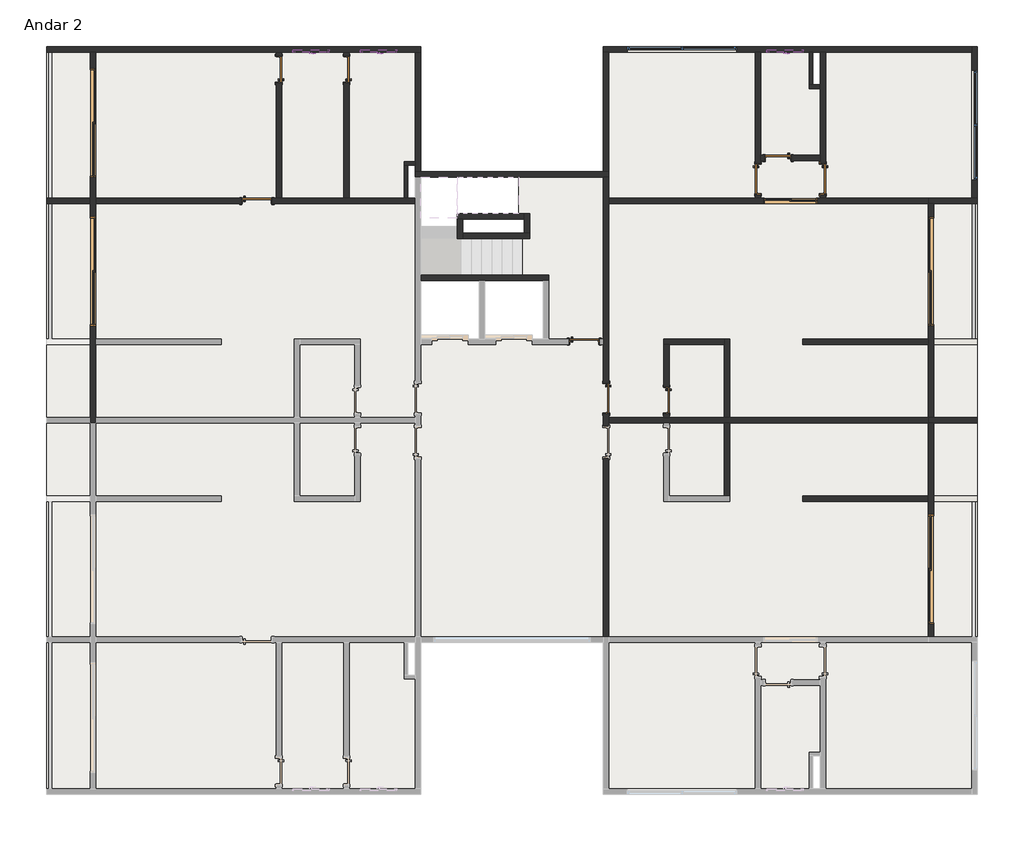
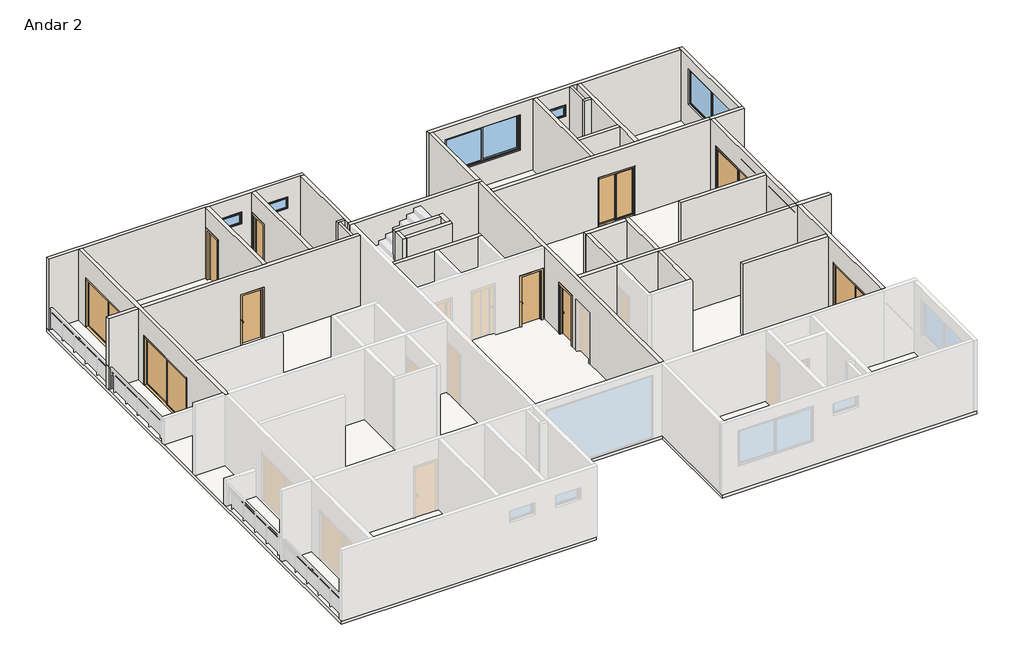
# One storey, part 2 of 3: 38 walls, 14 doors, 5 windows, 1 slab.
"""IFC4 building model written with IfcOpenShell, lengths in millimetres."""

from ifc_helpers import new_model, si_unit, frame, origin, place, context, project, spatial, polyline, outline, extrude, faceted_brep, transform, mapped, element, save
from components import door_3_00m_x_2_10m_bc451fc0, door_3_00m_x_2_10m_5baaadc1, door_interior_single_flush_panel_wood_70m_89b55d44, door_interior_single_flush_panel_wood_70m_eb1ec4d9, door_interior_single_flush_panel_wood_80m_pcf_cb5077a7, door_interior_single_flush_panel_wood_80m_pcf_192ded05, p2_1_50m_x_2_10m_2a77f288, window_d9182d47, j1_3_00m_x_1_50m_afc201fb

model = new_model("IFC4")

# Units and contexts
model_context = context("Model", 3, world=origin())
ifc_project = project(units=[si_unit("LENGTHUNIT", "METRE", prefix="MILLI")], contexts=[model_context])

# Site, building, storey
site = spatial("IfcSite", under=ifc_project)
building = spatial("IfcBuilding", under=site)
storey = spatial("IfcBuildingStorey", under=building, Name="Andar 2", Elevation=6150.0)

# Doors
placement = place(None, origin())
door_3_00m_x_2_10m_shape = door_3_00m_x_2_10m_bc451fc0(model_context)
element("IfcDoor", 1, ObjectType="Porta de Correr - 2 Folhas - ComPainel 1 : 3.00m x 2.10m", at=placement, inside=storey, context=model_context, shape_type="MappedRepresentation", body=[
    mapped(door_3_00m_x_2_10m_shape, transform((7275.0, 16604.2060771, 6150.0), x_axis=(0.0, -1.0, 0.0), y_axis=(1.0, 0.0, 0.0), z_axis=(0.0, 0.0, 1.0))),
])
element("IfcDoor", 2, ObjectType="Porta de Correr - 2 Folhas - ComPainel 1 : 3.00m x 2.10m", at=placement, inside=storey, context=model_context, shape_type="MappedRepresentation", body=[
    mapped(door_3_00m_x_2_10m_shape, transform((7275.0, 20664.2060771, 6150.0), x_axis=(0.0, -1.0, 0.0), y_axis=(1.0, 0.0, 0.0), z_axis=(0.0, 0.0, 1.0))),
])
element("IfcDoor", 3, ObjectType="Porta de Correr - 2 Folhas - ComPainel 1 : 3.00m x 2.10m", at=placement, inside=storey, context=model_context, shape_type="MappedRepresentation", body=[
    mapped(door_3_00m_x_2_10m_shape, transform((30175.0, 8395.7939229, 6150.0), x_axis=(0.0, 1.0, 0.0), y_axis=(-1.0, 0.0, 0.0), z_axis=(0.0, 0.0, 1.0))),
])
door_3_00m_x_2_10m_2_shape = door_3_00m_x_2_10m_5baaadc1(model_context)
element("IfcDoor", 4, ObjectType="Porta de Correr - 2 Folhas - ComPainel 1 : 3.00m x 2.10m", at=placement, inside=storey, context=model_context, shape_type="MappedRepresentation", body=[
    mapped(door_3_00m_x_2_10m_2_shape, transform((30175.0, 16604.2060771, 6150.0), x_axis=(0.0, -1.0, 0.0), y_axis=(1.0, 0.0, 0.0), z_axis=(0.0, 0.0, 1.0))),
])
door_interior_single_flush_panel_wood_70m_shape = door_interior_single_flush_panel_wood_70m_89b55d44(model_context)
element("IfcDoor", 5, ObjectType="Door-Interior-Single-Flush_Panel-Wood : .70m", at=placement, inside=storey, context=model_context, shape_type="MappedRepresentation", body=[
    mapped(door_interior_single_flush_panel_wood_70m_shape, transform((22953.175, 13050.4, 6150.0), x_axis=(0.0, -1.0, 0.0), y_axis=(1.0, 0.0, 0.0), z_axis=(0.0, 0.0, 1.0))),
])
door_interior_single_flush_panel_wood_70m_2_shape = door_interior_single_flush_panel_wood_70m_eb1ec4d9(model_context)
element("IfcDoor", 6, ObjectType="Door-Interior-Single-Flush_Panel-Wood : .70m", at=placement, inside=storey, context=model_context, shape_type="MappedRepresentation", body=[
    mapped(door_interior_single_flush_panel_wood_70m_2_shape, transform((14203.175, 22099.6, 6150.0), x_axis=(0.0, 1.0, 0.0), y_axis=(-1.0, 0.0, 0.0), z_axis=(0.0, 0.0, 1.0))),
])
element("IfcDoor", 7, ObjectType="Door-Interior-Single-Flush_Panel-Wood : .70m", at=placement, inside=storey, context=model_context, shape_type="MappedRepresentation", body=[
    mapped(door_interior_single_flush_panel_wood_70m_2_shape, transform((26000.4, 19678.575, 6150.0), x_axis=(-1.0, 0.0, 0.0), y_axis=(0.0, -1.0, 0.0), z_axis=(0.0, 0.0, 1.0))),
])
element("IfcDoor", 8, ObjectType="Door-Interior-Single-Flush_Panel-Wood : .70m", at=placement, inside=storey, context=model_context, shape_type="MappedRepresentation", body=[
    mapped(door_interior_single_flush_panel_wood_70m_2_shape, transform((12353.175, 22099.6, 6150.0), x_axis=(0.0, 1.0, 0.0), y_axis=(-1.0, 0.0, 0.0), z_axis=(0.0, 0.0, 1.0))),
])
door_interior_single_flush_panel_wood_80m_pcf_shape = door_interior_single_flush_panel_wood_80m_pcf_cb5077a7(model_context)
element("IfcDoor", 9, ObjectType="Door-Interior-Single-Flush_Panel-Wood : .80m", at=placement, inside=storey, context=model_context, shape_type="MappedRepresentation", body=[
    mapped(door_interior_single_flush_panel_wood_80m_pcf_shape, transform((25446.825, 19100.4, 6150.0), x_axis=(0.0, -1.0, 0.0), y_axis=(1.0, 0.0, 0.0), z_axis=(0.0, 0.0, 1.0))),
])
door_interior_single_flush_panel_wood_80m_pcf_2_shape = door_interior_single_flush_panel_wood_80m_pcf_192ded05(model_context)
element("IfcDoor", 10, ObjectType="Door-Interior-Single-Flush_Panel-Wood : .80m", at=placement, inside=storey, context=model_context, shape_type="MappedRepresentation", body=[
    mapped(door_interior_single_flush_panel_wood_80m_pcf_2_shape, transform((11749.6, 18503.175, 6150.0), x_axis=(1.0, 0.0, 0.0), y_axis=(0.0, 1.0, 0.0), z_axis=(0.0, 0.0, 1.0))),
])
element("IfcDoor", 11, ObjectType="Door-Interior-Single-Flush_Panel-Wood : .80m", at=placement, inside=storey, context=model_context, shape_type="MappedRepresentation", body=[
    mapped(door_interior_single_flush_panel_wood_80m_pcf_2_shape, transform((27228.175, 19100.4, 6150.0), x_axis=(0.0, -1.0, 0.0), y_axis=(1.0, 0.0, 0.0), z_axis=(0.0, 0.0, 1.0))),
])
element("IfcDoor", 12, ObjectType="Door-Interior-Single-Flush_Panel-Wood : .80m - PCF", at=placement, inside=storey, context=model_context, shape_type="MappedRepresentation", body=[
    mapped(door_interior_single_flush_panel_wood_80m_pcf_2_shape, transform((21303.175, 13100.4, 6150.0), x_axis=(0.0, -1.0, 0.0), y_axis=(1.0, 0.0, 0.0), z_axis=(0.0, 0.0, 1.0))),
])
element("IfcDoor", 13, ObjectType="Door-Interior-Single-Flush_Panel-Wood : .80m - PCF", at=placement, inside=storey, context=model_context, shape_type="MappedRepresentation", body=[
    mapped(door_interior_single_flush_panel_wood_80m_pcf_2_shape, transform((20699.6, 14653.175, 6150.0), x_axis=(1.0, 0.0, 0.0), y_axis=(0.0, 1.0, 0.0), z_axis=(0.0, 0.0, 1.0))),
])
p2_1_50m_x_2_10m_shape = p2_1_50m_x_2_10m_2a77f288(model_context)
element("IfcDoor", 14, ObjectType="Porta de Correr - 2 Folhas - ComPainel 1 : P2 - 1.50m x 2.10m", at=placement, inside=storey, context=model_context, shape_type="MappedRepresentation", body=[
    mapped(p2_1_50m_x_2_10m_shape, transform((26308.2939229, 18500.0, 6150.0), x_axis=(1.0, 0.0, 0.0), y_axis=(0.0, 1.0, 0.0), z_axis=(0.0, 0.0, 1.0))),
])

# Slab
element("IfcSlab", 15, ObjectType="_Laje 15cm", at=placement, inside=storey, context=model_context, shape_type="SweptSolid", body=[
    extrude(outline(polyline([(16205.0, 22705.0), (16205.0, 14725.0), (19725.0, 14725.0), (19725.0, 16475.0), (19010.0, 16475.0), (19010.0, 17474.2019304), (19205.0, 17473.8019304), (19205.0, 18149.6), (18905.0, 18149.6), (18905.0, 19279.2009656), (21245.0, 19279.2009656), (21245.0, 22705.0), (31430.0, 22705.0), (31430.0, 18425.0), (31450.0, 18425.0), (31450.0, 6575.0), (31430.0, 6575.0), (31430.0, 2295.0), (21245.0, 2295.0), (21245.0, 6445.0), (16205.0, 6445.0), (16205.0, 2295.0), (6000.0, 2295.0), (6000.0, 22705.0), (16205.0, 22705.0)]), holes=[polyline([(16075.0, 6425.0), (15775.0, 6425.0), (15775.0, 5425.0), (16075.0, 5425.0), (16075.0, 6425.0)]), polyline([(27300.0, 3425.0), (26850.0, 3425.0), (26850.0, 2425.0), (27300.0, 2425.0), (27300.0, 3425.0)]), polyline([(27300.0, 22575.0), (26850.0, 22575.0), (26850.0, 21575.0), (27300.0, 21575.0), (27300.0, 22575.0)]), polyline([(16075.0, 19575.0), (15775.0, 19575.0), (15775.0, 18575.0), (16075.0, 18575.0), (16075.0, 19575.0)])]), frame((0.0, 0.0, 6000.0), z_axis=(0.0, 0.0, 1.0), x_axis=(1.0, 0.0, 0.0)), (0.0, 0.0, 1.0), 150.0),
])

# Walls
element("IfcWall", 16, ObjectType="M_Parede Normal - 10cm - Interna", at=placement, inside=storey, context=model_context, shape_type="Brep", body=[
    faceted_brep([(27150.0, 21675.0, 6150.0), (26950.0, 21675.0, 6150.0), (26850.0, 21675.0, 6150.0), (26850.0, 21675.0, 9150.0), (26950.0, 21675.0, 9150.0), (27150.0, 21675.0, 9150.0), (27150.0, 21575.0, 6150.0), (27150.0, 21575.0, 9150.0), (26850.0, 21575.0, 9150.0), (26850.0, 21575.0, 6150.0)], [[[0, 1, 2, 3, 4, 5]], [[6, 7, 8, 9]], [[2, 1, 0, 6, 9]], [[5, 4, 3, 8, 7]], [[0, 5, 7, 6]], [[3, 2, 9, 8]]]),
])
element("IfcWall", 17, ObjectType="M_Parede Normal - 10cm - Interna", at=placement, inside=storey, context=model_context, shape_type="SweptSolid", body=[
    extrude(outline(polyline([(26950.0, 22575.0), (26950.0, 21675.0), (26850.0, 21675.0), (26850.0, 22575.0), (26950.0, 22575.0)])), frame((0.0, 0.0, 6150.0), z_axis=(0.0, 0.0, 1.0), x_axis=(1.0, 0.0, 0.0)), (0.0, 0.0, 1.0), 3000.0),
])
element("IfcWall", 18, ObjectType="M_Parede Normal - 10cm - Interna", at=placement, inside=storey, context=model_context, shape_type="Brep", body=[
    faceted_brep([(16075.0, 19575.0, 6150.0), (15775.0, 19575.0, 6150.0), (15775.0, 19575.0, 9150.0), (16075.0, 19575.0, 9150.0), (16075.0, 19475.0, 6150.0), (16075.0, 19475.0, 9150.0), (15875.0, 19475.0, 9150.0), (15775.0, 19475.0, 9150.0), (15775.0, 19475.0, 6150.0), (15875.0, 19475.0, 6150.0)], [[[0, 1, 2, 3]], [[4, 5, 6, 7, 8, 9]], [[1, 0, 4, 9, 8]], [[3, 2, 7, 6, 5]], [[0, 3, 5, 4]], [[2, 1, 8, 7]]]),
])
element("IfcWall", 19, ObjectType="M_Parede Normal - 10cm - Interna", at=placement, inside=storey, context=model_context, shape_type="SweptSolid", body=[
    extrude(outline(polyline([(15775.0, 18575.0), (15775.0, 19475.0), (15875.0, 19475.0), (15875.0, 18575.0), (15775.0, 18575.0)])), frame((0.0, 0.0, 6150.0), z_axis=(0.0, 0.0, 1.0), x_axis=(1.0, 0.0, 0.0)), (0.0, 0.0, 1.0), 3000.0),
])
element("IfcWall", 20, ObjectType="M_Parede Normal - 15cm - Externa", at=placement, inside=storey, context=model_context, shape_type="Brep", body=[
    faceted_brep([(16075.0, 22575.0, 6150.0), (16075.0, 19575.0, 6150.0), (16075.0, 19475.0, 6150.0), (16075.0, 19299.2009656, 6150.0), (16075.0, 19299.2009656, 9150.0), (16075.0, 19475.0, 9150.0), (16075.0, 19575.0, 9150.0), (16075.0, 22575.0, 9150.0), (16225.0, 22575.0, 6150.0), (16225.0, 22575.0, 9150.0), (16225.0, 19299.2009656, 9150.0), (16225.0, 19299.2009656, 6150.0)], [[[0, 1, 2, 3, 4, 5, 6, 7]], [[8, 9, 10, 11]], [[3, 2, 1, 0, 8, 11]], [[7, 6, 5, 4, 10, 9]], [[0, 7, 9, 8]], [[4, 3, 11, 10]]]),
])
element("IfcWall", 21, ObjectType="M_Parede Normal - 15cm - Externa", at=placement, inside=storey, context=model_context, shape_type="Brep", body=[
    faceted_brep([(6000.0, 22575.0, 6150.0), (7200.0, 22575.0, 6150.0), (7350.0, 22575.0, 6150.0), (12275.0, 22575.0, 6150.0), (12425.0, 22575.0, 6150.0), (14125.0, 22575.0, 6150.0), (14275.0, 22575.0, 6150.0), (16075.0, 22575.0, 6150.0), (16225.0, 22575.0, 6150.0), (16225.0, 22575.0, 9150.0), (16075.0, 22575.0, 9150.0), (14275.0, 22575.0, 9150.0), (14125.0, 22575.0, 9150.0), (12425.0, 22575.0, 9150.0), (12275.0, 22575.0, 9150.0), (7350.0, 22575.0, 9150.0), (7200.0, 22575.0, 9150.0), (6000.0, 22575.0, 9150.0), (15575.0, 22575.0, 8450.0), (15575.0, 22575.0, 7950.0), (14575.0, 22575.0, 7950.0), (14575.0, 22575.0, 8450.0), (13725.0, 22575.0, 8450.0), (13725.0, 22575.0, 7950.0), (12725.0, 22575.0, 7950.0), (12725.0, 22575.0, 8450.0), (16225.0, 22725.0, 6150.0), (6000.0, 22725.0, 6150.0), (6000.0, 22725.0, 9150.0), (16225.0, 22725.0, 9150.0), (15575.0, 22725.0, 7950.0), (15575.0, 22725.0, 8450.0), (14575.0, 22725.0, 8450.0), (14575.0, 22725.0, 7950.0), (13725.0, 22725.0, 7950.0), (13725.0, 22725.0, 8450.0), (12725.0, 22725.0, 8450.0), (12725.0, 22725.0, 7950.0)], [[[0, 1, 2, 3, 4, 5, 6, 7, 8, 9, 10, 11, 12, 13, 14, 15, 16, 17], [18, 19, 20, 21], [22, 23, 24, 25]], [[26, 27, 28, 29], [30, 31, 32, 33], [34, 35, 36, 37]], [[8, 7, 6, 5, 4, 3, 2, 1, 0, 27, 26]], [[17, 16, 15, 14, 13, 12, 11, 10, 9, 29, 28]], [[0, 17, 28, 27]], [[30, 19, 18, 31]], [[32, 21, 20, 33]], [[19, 30, 33, 20]], [[21, 32, 31, 18]], [[35, 34, 23, 22]], [[36, 35, 22, 25]], [[37, 36, 25, 24]], [[34, 37, 24, 23]], [[9, 8, 26, 29]]]),
])
element("IfcWall", 22, ObjectType="M_Parede Normal - 15cm - Externa", at=placement, inside=storey, context=model_context, shape_type="Brep", body=[
    faceted_brep([(31450.0, 12575.0, 6150.0), (30250.0, 12575.0, 6150.0), (30100.0, 12575.0, 6150.0), (30100.0, 12575.0, 9150.0), (30250.0, 12575.0, 9150.0), (31450.0, 12575.0, 9150.0), (31450.0, 12425.0, 6150.0), (31450.0, 12425.0, 9150.0), (30250.0, 12425.0, 9150.0), (30100.0, 12425.0, 9150.0), (30100.0, 12425.0, 6150.0), (30250.0, 12425.0, 6150.0)], [[[0, 1, 2, 3, 4, 5]], [[6, 7, 8, 9, 10, 11]], [[2, 1, 0, 6, 11, 10]], [[5, 4, 3, 9, 8, 7]], [[0, 5, 7, 6]], [[3, 2, 10, 9]]]),
])
element("IfcWall", 23, ObjectType="M_Parede Normal - 15cm - Externa", at=placement, inside=storey, context=model_context, shape_type="Brep", body=[
    faceted_brep([(7350.0, 22575.0, 9150.0), (7350.0, 18575.0, 9150.0), (7350.0, 18425.0, 9150.0), (7350.0, 12575.0, 9150.0), (7350.0, 12425.0, 9150.0), (7350.0, 12425.0, 6150.0), (7350.0, 12575.0, 6150.0), (7350.0, 15075.0, 6150.0), (7350.0, 15075.0, 8250.0), (7350.0, 18075.0, 8250.0), (7350.0, 18075.0, 6150.0), (7350.0, 18425.0, 6150.0), (7350.0, 18575.0, 6150.0), (7350.0, 19135.0, 6150.0), (7350.0, 19135.0, 8250.0), (7350.0, 22135.0, 8250.0), (7350.0, 22135.0, 6150.0), (7350.0, 22575.0, 6150.0), (7200.0, 12425.0, 9150.0), (7200.0, 12575.0, 9150.0), (7200.0, 18425.0, 9150.0), (7200.0, 18575.0, 9150.0), (7200.0, 22575.0, 9150.0), (7200.0, 22575.0, 6150.0), (7200.0, 22135.0, 6150.0), (7200.0, 22135.0, 8250.0), (7200.0, 19135.0, 8250.0), (7200.0, 19135.0, 6150.0), (7200.0, 18575.0, 6150.0), (7200.0, 18425.0, 6150.0), (7200.0, 18075.0, 6150.0), (7200.0, 18075.0, 8250.0), (7200.0, 15075.0, 8250.0), (7200.0, 15075.0, 6150.0), (7200.0, 12575.0, 6150.0), (7200.0, 12425.0, 6150.0)], [[[0, 1, 2, 3, 4, 5, 6, 7, 8, 9, 10, 11, 12, 13, 14, 15, 16, 17]], [[18, 19, 20, 21, 22, 23, 24, 25, 26, 27, 28, 29, 30, 31, 32, 33, 34, 35]], [[23, 17, 16, 24]], [[10, 30, 29, 28, 27, 13, 12, 11]], [[7, 6, 5, 35, 34, 33]], [[4, 3, 2, 1, 0, 22, 21, 20, 19, 18]], [[0, 17, 23, 22]], [[32, 8, 7, 33]], [[8, 32, 31, 9]], [[9, 31, 30, 10]], [[26, 14, 13, 27]], [[14, 26, 25, 15]], [[15, 25, 24, 16]], [[5, 4, 18, 35]]]),
])
element("IfcWall", 24, ObjectType="M_Parede Normal - 15cm - Externa", at=placement, inside=storey, context=model_context, shape_type="SweptSolid", body=[
    extrude(outline(polyline([(21225.0, 19299.2009656), (21225.0, 22575.0), (21375.0, 22575.0), (21375.0, 19299.2009656), (21225.0, 19299.2009656)])), frame((0.0, 0.0, 6150.0), z_axis=(0.0, 0.0, 1.0), x_axis=(1.0, 0.0, 0.0)), (0.0, 0.0, 1.0), 3000.0),
])
element("IfcWall", 25, ObjectType="M_Parede Normal - 15cm - Externa", at=placement, inside=storey, context=model_context, shape_type="Brep", body=[
    faceted_brep([(30250.0, 18425.0, 9150.0), (30250.0, 12575.0, 9150.0), (30250.0, 12575.0, 6150.0), (30250.0, 15075.0, 6150.0), (30250.0, 15075.0, 8250.0), (30250.0, 18075.0, 8250.0), (30250.0, 18075.0, 6150.0), (30250.0, 18425.0, 6150.0), (30100.0, 12575.0, 9150.0), (30100.0, 14575.0, 9150.0), (30100.0, 14725.0, 9150.0), (30100.0, 18425.0, 9150.0), (30100.0, 18425.0, 6150.0), (30100.0, 18075.0, 6150.0), (30100.0, 18075.0, 8250.0), (30100.0, 15075.0, 8250.0), (30100.0, 15075.0, 6150.0), (30100.0, 14725.0, 6150.0), (30100.0, 14575.0, 6150.0), (30100.0, 12575.0, 6150.0)], [[[0, 1, 2, 3, 4, 5, 6, 7]], [[8, 9, 10, 11, 12, 13, 14, 15, 16, 17, 18, 19]], [[12, 7, 6, 13]], [[2, 19, 18, 17, 16, 3]], [[1, 0, 11, 10, 9, 8]], [[0, 7, 12, 11]], [[15, 4, 3, 16]], [[4, 15, 14, 5]], [[5, 14, 13, 6]], [[2, 1, 8, 19]]]),
])
element("IfcWall", 26, ObjectType="M_Parede Normal - 15cm - Externa", at=placement, inside=storey, context=model_context, shape_type="SweptSolid", body=[
    extrude(outline(polyline([(30250.0, 14725.0), (31450.0, 14725.0), (31450.0, 14575.0), (30250.0, 14575.0), (30250.0, 14725.0)])), frame((0.0, 0.0, 6150.0), z_axis=(0.0, 0.0, 1.0), x_axis=(1.0, 0.0, 0.0)), (0.0, 0.0, 1.0), 1100.0),
])
element("IfcWall", 27, ObjectType="M_Parede Normal - 15cm - Externa", at=placement, inside=storey, context=model_context, shape_type="Brep", body=[
    faceted_brep([(31450.0, 18575.0, 6150.0), (31450.0, 22725.0, 6150.0), (31450.0, 22725.0, 9150.0), (31450.0, 18575.0, 9150.0), (31450.0, 19075.0, 7150.0), (31450.0, 19075.0, 8650.0), (31450.0, 22075.0, 8650.0), (31450.0, 22075.0, 7150.0), (31300.0, 18575.0, 6150.0), (31300.0, 18575.0, 9150.0), (31300.0, 22575.0, 9150.0), (31300.0, 22725.0, 9150.0), (31300.0, 22725.0, 6150.0), (31300.0, 22575.0, 6150.0), (31300.0, 19075.0, 7150.0), (31300.0, 22075.0, 7150.0), (31300.0, 22075.0, 8650.0), (31300.0, 19075.0, 8650.0)], [[[0, 1, 2, 3], [4, 5, 6, 7]], [[8, 9, 10, 11, 12, 13], [14, 15, 16, 17]], [[1, 0, 8, 13, 12]], [[3, 2, 11, 10, 9]], [[0, 3, 9, 8]], [[2, 1, 12, 11]], [[5, 4, 14, 17]], [[6, 5, 17, 16]], [[7, 6, 16, 15]], [[4, 7, 15, 14]]]),
])
element("IfcWall", 28, ObjectType="M_Parede Normal - 15cm - Externa", at=placement, inside=storey, context=model_context, shape_type="SweptSolid", body=[
    extrude(outline(polyline([(6000.0, 18575.0), (7200.0, 18575.0), (7200.0, 18425.0), (6000.0, 18425.0), (6000.0, 18575.0)])), frame((0.0, 0.0, 6150.0), z_axis=(0.0, 0.0, 1.0), x_axis=(1.0, 0.0, 0.0)), (0.0, 0.0, 1.0), 3000.0),
])
element("IfcWall", 29, ObjectType="M_Parede Normal - 15cm - Externa", at=placement, inside=storey, context=model_context, shape_type="Brep", body=[
    faceted_brep([(30100.0, 18425.0, 6150.0), (30250.0, 18425.0, 6150.0), (31450.0, 18425.0, 6150.0), (31450.0, 18425.0, 9150.0), (30250.0, 18425.0, 9150.0), (30100.0, 18425.0, 9150.0), (30100.0, 18575.0, 6150.0), (30100.0, 18575.0, 9150.0), (31300.0, 18575.0, 9150.0), (31450.0, 18575.0, 9150.0), (31450.0, 18575.0, 6150.0), (31300.0, 18575.0, 6150.0)], [[[0, 1, 2, 3, 4, 5]], [[6, 7, 8, 9, 10, 11]], [[2, 1, 0, 6, 11, 10]], [[5, 4, 3, 9, 8, 7]], [[3, 2, 10, 9]], [[0, 5, 7, 6]]]),
])
element("IfcWall", 30, ObjectType="M_Parede Normal - 15cm - Externa", at=placement, inside=storey, context=model_context, shape_type="Brep", body=[
    faceted_brep([(30100.0, 6575.0, 9150.0), (30100.0, 10275.0, 9150.0), (30100.0, 10425.0, 9150.0), (30100.0, 12425.0, 9150.0), (30100.0, 12425.0, 6150.0), (30100.0, 10425.0, 6150.0), (30100.0, 10275.0, 6150.0), (30100.0, 9925.0, 6150.0), (30100.0, 9925.0, 8250.0), (30100.0, 6925.0, 8250.0), (30100.0, 6925.0, 6150.0), (30100.0, 6575.0, 6150.0), (30250.0, 12425.0, 9150.0), (30250.0, 6575.0, 9150.0), (30250.0, 6575.0, 6150.0), (30250.0, 6925.0, 6150.0), (30250.0, 6925.0, 8250.0), (30250.0, 9925.0, 8250.0), (30250.0, 9925.0, 6150.0), (30250.0, 12425.0, 6150.0)], [[[0, 1, 2, 3, 4, 5, 6, 7, 8, 9, 10, 11]], [[12, 13, 14, 15, 16, 17, 18, 19]], [[14, 11, 10, 15]], [[4, 19, 18, 7, 6, 5]], [[3, 2, 1, 0, 13, 12]], [[0, 11, 14, 13]], [[4, 3, 12, 19]], [[17, 8, 7, 18]], [[8, 17, 16, 9]], [[9, 16, 15, 10]]]),
])
element("IfcWall", 31, ObjectType="M_Parede Normal - 15cm - Externa", at=placement, inside=storey, context=model_context, shape_type="SweptSolid", body=[
    extrude(outline(polyline([(30250.0, 10425.0), (31450.0, 10425.0), (31450.0, 10275.0), (30250.0, 10275.0), (30250.0, 10425.0)])), frame((0.0, 0.0, 6150.0), z_axis=(0.0, 0.0, 1.0), x_axis=(1.0, 0.0, 0.0)), (0.0, 0.0, 1.0), 1100.0),
])
element("IfcWall", 32, ObjectType="M_Parede Normal - 15cm - Externa", at=placement, inside=storey, context=model_context, shape_type="Brep", body=[
    faceted_brep([(21225.0, 22575.0, 6150.0), (21375.0, 22575.0, 6150.0), (25375.0, 22575.0, 6150.0), (25525.0, 22575.0, 6150.0), (26850.0, 22575.0, 6150.0), (26950.0, 22575.0, 6150.0), (27150.0, 22575.0, 6150.0), (27300.0, 22575.0, 6150.0), (31300.0, 22575.0, 6150.0), (31300.0, 22575.0, 9150.0), (27300.0, 22575.0, 9150.0), (27150.0, 22575.0, 9150.0), (26950.0, 22575.0, 9150.0), (26850.0, 22575.0, 9150.0), (25525.0, 22575.0, 9150.0), (25375.0, 22575.0, 9150.0), (21375.0, 22575.0, 9150.0), (21225.0, 22575.0, 9150.0), (24875.0, 22575.0, 7150.0), (21875.0, 22575.0, 7150.0), (21875.0, 22575.0, 8650.0), (24875.0, 22575.0, 8650.0), (26687.5, 22575.0, 7950.0), (25687.5, 22575.0, 7950.0), (25687.5, 22575.0, 8450.0), (26687.5, 22575.0, 8450.0), (21225.0, 22725.0, 6150.0), (21225.0, 22725.0, 9150.0), (31300.0, 22725.0, 9150.0), (31300.0, 22725.0, 6150.0), (24875.0, 22725.0, 7150.0), (24875.0, 22725.0, 8650.0), (21875.0, 22725.0, 8650.0), (21875.0, 22725.0, 7150.0), (26687.5, 22725.0, 7950.0), (26687.5, 22725.0, 8450.0), (25687.5, 22725.0, 8450.0), (25687.5, 22725.0, 7950.0)], [[[0, 1, 2, 3, 4, 5, 6, 7, 8, 9, 10, 11, 12, 13, 14, 15, 16, 17], [18, 19, 20, 21], [22, 23, 24, 25]], [[26, 27, 28, 29], [30, 31, 32, 33], [34, 35, 36, 37]], [[8, 7, 6, 5, 4, 3, 2, 1, 0, 26, 29]], [[17, 16, 15, 14, 13, 12, 11, 10, 9, 28, 27]], [[9, 8, 29, 28]], [[30, 33, 19, 18]], [[33, 32, 20, 19]], [[32, 31, 21, 20]], [[31, 30, 18, 21]], [[0, 17, 27, 26]], [[35, 34, 22, 25]], [[36, 35, 25, 24]], [[37, 36, 24, 23]], [[34, 37, 23, 22]]]),
])
element("IfcWall", 33, ObjectType="M_Parede Normal - 15cm - Externa", at=placement, inside=storey, context=model_context, shape_type="Brep", body=[
    faceted_brep([(16075.0, 19149.2009656, 6150.0), (16225.0, 19149.2009656, 6150.0), (21225.0, 19149.2009656, 6150.0), (21375.0, 19149.2009656, 6150.0), (21375.0, 19149.2009656, 9150.0), (21225.0, 19149.2009656, 9150.0), (16225.0, 19149.2009656, 9150.0), (16075.0, 19149.2009656, 9150.0), (16075.0, 19299.2009656, 6150.0), (16075.0, 19299.2009656, 9150.0), (16225.0, 19299.2009656, 9150.0), (21225.0, 19299.2009656, 9150.0), (21375.0, 19299.2009656, 9150.0), (21375.0, 19299.2009656, 6150.0), (21225.0, 19299.2009656, 6150.0), (16225.0, 19299.2009656, 6150.0)], [[[0, 1, 2, 3, 4, 5, 6, 7]], [[8, 9, 10, 11, 12, 13, 14, 15]], [[3, 2, 1, 0, 8, 15, 14, 13]], [[7, 6, 5, 4, 12, 11, 10, 9]], [[0, 7, 9, 8]], [[4, 3, 13, 12]]]),
])
element("IfcWall", 34, ObjectType="M_Parede Normal - 15cm - Interna", at=placement, inside=storey, context=model_context, shape_type="Brep", body=[
    faceted_brep([(7350.0, 18575.0, 9150.0), (12275.0, 18575.0, 9150.0), (12425.0, 18575.0, 9150.0), (14125.0, 18575.0, 9150.0), (14275.0, 18575.0, 9150.0), (15775.0, 18575.0, 9150.0), (15875.0, 18575.0, 9150.0), (16075.0, 18575.0, 9150.0), (16075.0, 18575.0, 6150.0), (15875.0, 18575.0, 6150.0), (15775.0, 18575.0, 6150.0), (14275.0, 18575.0, 6150.0), (14125.0, 18575.0, 6150.0), (12425.0, 18575.0, 6150.0), (12275.0, 18575.0, 6150.0), (12175.0, 18575.0, 6150.0), (12175.0, 18575.0, 8275.4), (11324.2, 18575.0, 8275.4), (11324.2, 18575.0, 6150.0), (7350.0, 18575.0, 6150.0), (16075.0, 18425.0, 9150.0), (7350.0, 18425.0, 9150.0), (7350.0, 18425.0, 6150.0), (11324.2, 18425.0, 6150.0), (11324.2, 18425.0, 8275.4), (12175.0, 18425.0, 8275.4), (12175.0, 18425.0, 6150.0), (16075.0, 18425.0, 6150.0)], [[[0, 1, 2, 3, 4, 5, 6, 7, 8, 9, 10, 11, 12, 13, 14, 15, 16, 17, 18, 19]], [[20, 21, 22, 23, 24, 25, 26, 27]], [[8, 27, 26, 15, 14, 13, 12, 11, 10, 9]], [[22, 19, 18, 23]], [[7, 6, 5, 4, 3, 2, 1, 0, 21, 20]], [[8, 7, 20, 27]], [[25, 16, 15, 26]], [[16, 25, 24, 17]], [[17, 24, 23, 18]], [[0, 19, 22, 21]]]),
])
element("IfcWall", 35, ObjectType="M_Parede Normal - 15cm - Interna", at=placement, inside=storey, context=model_context, shape_type="SweptSolid", body=[
    extrude(outline(polyline([(18575.0, 9150.0), (22575.0, 9150.0), (22575.0, 6150.0), (22475.0, 6150.0), (22475.0, 8275.4), (21724.2, 8275.4), (21724.2, 6150.0), (18575.0, 6150.0), (18575.0, 9150.0)])), frame((14125.0, 0.0, 0.0), z_axis=(1.0, 0.0, 0.0), x_axis=(0.0, 1.0, 0.0)), (0.0, 0.0, 1.0), 150.0),
])
element("IfcWall", 36, ObjectType="M_Parede Normal - 15cm - Interna", at=placement, inside=storey, context=model_context, shape_type="Brep", body=[
    faceted_brep([(30100.0, 18425.0, 9150.0), (21375.0, 18425.0, 9150.0), (21375.0, 18425.0, 6150.0), (25587.5, 18425.0, 6150.0), (25587.5, 18425.0, 8250.0), (27087.5, 18425.0, 8250.0), (27087.5, 18425.0, 6150.0), (30100.0, 18425.0, 6150.0), (21375.0, 18575.0, 9150.0), (25375.0, 18575.0, 9150.0), (25525.0, 18575.0, 9150.0), (27150.0, 18575.0, 9150.0), (27300.0, 18575.0, 9150.0), (30100.0, 18575.0, 9150.0), (30100.0, 18575.0, 6150.0), (27300.0, 18575.0, 6150.0), (27150.0, 18575.0, 6150.0), (27087.5, 18575.0, 6150.0), (27087.5, 18575.0, 8250.0), (25587.5, 18575.0, 8250.0), (25587.5, 18575.0, 6150.0), (25525.0, 18575.0, 6150.0), (25375.0, 18575.0, 6150.0), (21375.0, 18575.0, 6150.0)], [[[0, 1, 2, 3, 4, 5, 6, 7]], [[8, 9, 10, 11, 12, 13, 14, 15, 16, 17, 18, 19, 20, 21, 22, 23]], [[2, 23, 22, 21, 20, 3]], [[14, 7, 6, 17, 16, 15]], [[1, 0, 13, 12, 11, 10, 9, 8]], [[2, 1, 8, 23]], [[0, 7, 14, 13]], [[5, 18, 17, 6]], [[18, 5, 4, 19]], [[19, 4, 3, 20]]]),
])
element("IfcWall", 37, ObjectType="M_Parede Normal - 15cm - Interna", at=placement, inside=storey, context=model_context, shape_type="SweptSolid", body=[
    extrude(outline(polyline([(12575.0, 9150.0), (14575.0, 9150.0), (14575.0, 6150.0), (13425.8, 6150.0), (13425.8, 8275.4), (12675.0, 8275.4), (12675.0, 6150.0), (12575.0, 6150.0), (12575.0, 9150.0)])), frame((22875.0, 0.0, 0.0), z_axis=(1.0, 0.0, 0.0), x_axis=(0.0, 1.0, 0.0)), (0.0, 0.0, 1.0), 150.0),
])
element("IfcWall", 38, ObjectType="M_Parede Normal - 15cm - Interna", at=placement, inside=storey, context=model_context, shape_type="Brep", body=[
    faceted_brep([(22875.0, 14575.0, 6150.0), (23025.0, 14575.0, 6150.0), (24525.0, 14575.0, 6150.0), (24525.0, 14575.0, 9150.0), (23025.0, 14575.0, 9150.0), (22875.0, 14575.0, 9150.0), (22875.0, 14725.0, 6150.0), (22875.0, 14725.0, 9150.0), (24525.0, 14725.0, 9150.0), (24525.0, 14725.0, 6150.0)], [[[0, 1, 2, 3, 4, 5]], [[6, 7, 8, 9]], [[2, 1, 0, 6, 9]], [[5, 4, 3, 8, 7]], [[0, 5, 7, 6]], [[3, 2, 9, 8]]]),
])
element("IfcWall", 39, ObjectType="M_Parede Normal - 15cm - Interna", at=placement, inside=storey, context=model_context, shape_type="Brep", body=[
    faceted_brep([(24525.0, 14725.0, 6150.0), (24525.0, 14575.0, 6150.0), (24525.0, 12575.0, 6150.0), (24525.0, 12575.0, 9150.0), (24525.0, 14575.0, 9150.0), (24525.0, 14725.0, 9150.0), (24675.0, 14725.0, 6150.0), (24675.0, 14725.0, 9150.0), (24675.0, 12575.0, 9150.0), (24675.0, 12575.0, 6150.0)], [[[0, 1, 2, 3, 4, 5]], [[6, 7, 8, 9]], [[2, 1, 0, 6, 9]], [[5, 4, 3, 8, 7]], [[0, 5, 7, 6]], [[3, 2, 9, 8]]]),
])
element("IfcWall", 40, ObjectType="M_Parede Normal - 15cm - Interna", at=placement, inside=storey, context=model_context, shape_type="Brep", body=[
    faceted_brep([(27300.0, 22575.0, 9150.0), (27300.0, 18575.0, 9150.0), (27300.0, 18575.0, 6150.0), (27300.0, 18675.0, 6150.0), (27300.0, 18675.0, 8275.4), (27300.0, 19525.8, 8275.4), (27300.0, 19525.8, 6150.0), (27300.0, 22575.0, 6150.0), (27150.0, 18575.0, 9150.0), (27150.0, 19600.4, 9150.0), (27150.0, 19750.4, 9150.0), (27150.0, 21575.0, 9150.0), (27150.0, 21675.0, 9150.0), (27150.0, 22575.0, 9150.0), (27150.0, 22575.0, 6150.0), (27150.0, 21675.0, 6150.0), (27150.0, 21575.0, 6150.0), (27150.0, 19750.4, 6150.0), (27150.0, 19600.4, 6150.0), (27150.0, 19525.8, 6150.0), (27150.0, 19525.8, 8275.4), (27150.0, 18675.0, 8275.4), (27150.0, 18675.0, 6150.0), (27150.0, 18575.0, 6150.0)], [[[0, 1, 2, 3, 4, 5, 6, 7]], [[8, 9, 10, 11, 12, 13, 14, 15, 16, 17, 18, 19, 20, 21, 22, 23]], [[2, 23, 22, 3]], [[14, 7, 6, 19, 18, 17, 16, 15]], [[1, 0, 13, 12, 11, 10, 9, 8]], [[2, 1, 8, 23]], [[0, 7, 14, 13]], [[21, 4, 3, 22]], [[4, 21, 20, 5]], [[5, 20, 19, 6]]]),
])
element("IfcWall", 41, ObjectType="M_Parede Normal - 15cm - Interna", at=placement, inside=storey, context=model_context, shape_type="Brep", body=[
    faceted_brep([(25525.0, 22575.0, 9150.0), (25525.0, 19750.4, 9150.0), (25525.0, 19600.4, 9150.0), (25525.0, 18575.0, 9150.0), (25525.0, 18575.0, 6150.0), (25525.0, 18675.0, 6150.0), (25525.0, 18675.0, 8275.4), (25525.0, 19525.8, 8275.4), (25525.0, 19525.8, 6150.0), (25525.0, 19600.4, 6150.0), (25525.0, 19750.4, 6150.0), (25525.0, 22575.0, 6150.0), (25375.0, 18575.0, 9150.0), (25375.0, 22575.0, 9150.0), (25375.0, 22575.0, 6150.0), (25375.0, 19525.8, 6150.0), (25375.0, 19525.8, 8275.4), (25375.0, 18675.0, 8275.4), (25375.0, 18675.0, 6150.0), (25375.0, 18575.0, 6150.0)], [[[0, 1, 2, 3, 4, 5, 6, 7, 8, 9, 10, 11]], [[12, 13, 14, 15, 16, 17, 18, 19]], [[4, 19, 18, 5]], [[14, 11, 10, 9, 8, 15]], [[3, 2, 1, 0, 13, 12]], [[4, 3, 12, 19]], [[0, 11, 14, 13]], [[17, 6, 5, 18]], [[6, 17, 16, 7]], [[7, 16, 15, 8]]]),
])
element("IfcWall", 42, ObjectType="M_Parede Normal - 15cm - Interna", at=placement, inside=storey, context=model_context, shape_type="SweptSolid", body=[
    extrude(outline(polyline([(9150.0, 27150.0), (9150.0, 25525.0), (6150.0, 25525.0), (6150.0, 25625.0), (8275.4, 25625.0), (8275.4, 26375.8), (6150.0, 26375.8), (6150.0, 27150.0), (9150.0, 27150.0)])), frame((0.0, 19600.4, 0.0), z_axis=(0.0, 1.0, 0.0), x_axis=(0.0, 0.0, 1.0)), (0.0, 0.0, 1.0), 150.0),
])
element("IfcWall", 43, ObjectType="M_Parede Normal - 15cm - Interna", at=placement, inside=storey, context=model_context, shape_type="Brep", body=[
    faceted_brep([(17225.4, 17998.8009656, 6150.0), (17375.4, 17998.8009656, 6150.0), (19055.0, 17998.8009656, 6150.0), (19055.0, 17998.8009656, 9150.0), (17375.4, 17998.8009656, 9150.0), (17225.4, 17998.8009656, 9150.0), (17225.4, 18148.8009656, 6150.0), (17225.4, 18148.8009656, 9150.0), (19055.0, 18148.8009656, 9150.0), (19055.0, 18148.8009656, 6150.0)], [[[0, 1, 2, 3, 4, 5]], [[6, 7, 8, 9]], [[2, 1, 0, 6, 9]], [[5, 4, 3, 8, 7]], [[0, 5, 7, 6]], [[3, 2, 9, 8]]]),
])
element("IfcWall", 44, ObjectType="M_Parede Normal - 15cm - Interna", at=placement, inside=storey, context=model_context, shape_type="Brep", body=[
    faceted_brep([(17375.4, 17474.2009656, 6150.0), (17375.4, 17624.2009656, 6150.0), (17375.4, 17998.8009656, 6150.0), (17375.4, 17998.8009656, 9150.0), (17375.4, 17624.2009656, 9150.0), (17375.4, 17474.2009656, 9150.0), (17225.4, 17474.2009656, 6150.0), (17225.4, 17474.2009656, 9150.0), (17225.4, 17998.8009656, 9150.0), (17225.4, 17998.8009656, 6150.0)], [[[0, 1, 2, 3, 4, 5]], [[6, 7, 8, 9]], [[2, 1, 0, 6, 9]], [[5, 4, 3, 8, 7]], [[0, 5, 7, 6]], [[3, 2, 9, 8]]]),
])
element("IfcWall", 45, ObjectType="M_Parede Normal - 15cm - Interna", at=placement, inside=storey, context=model_context, shape_type="Brep", body=[
    faceted_brep([(19205.0, 17624.2009656, 6150.0), (19055.0, 17624.2009656, 6150.0), (17375.4, 17624.2009656, 6150.0), (17375.4, 17624.2009656, 9150.0), (19055.0, 17624.2009656, 9150.0), (19205.0, 17624.2009656, 9150.0), (19205.0, 17474.2009656, 6150.0), (19205.0, 17474.2009656, 9150.0), (17375.4, 17474.2009656, 9150.0), (17375.4, 17474.2009656, 6150.0)], [[[0, 1, 2, 3, 4, 5]], [[6, 7, 8, 9]], [[2, 1, 0, 6, 9]], [[5, 4, 3, 8, 7]], [[0, 5, 7, 6]], [[3, 2, 9, 8]]]),
])
element("IfcWall", 46, ObjectType="M_Parede Normal - 15cm - Interna", at=placement, inside=storey, context=model_context, shape_type="Brep", body=[
    faceted_brep([(19055.0, 18148.8009656, 6150.0), (19055.0, 17998.8009656, 6150.0), (19055.0, 17624.2009656, 6150.0), (19055.0, 17624.2009656, 9150.0), (19055.0, 17998.8009656, 9150.0), (19055.0, 18148.8009656, 9150.0), (19205.0, 18148.8009656, 6150.0), (19205.0, 18148.8009656, 9150.0), (19205.0, 17624.2009656, 9150.0), (19205.0, 17624.2009656, 6150.0)], [[[0, 1, 2, 3, 4, 5]], [[6, 7, 8, 9]], [[2, 1, 0, 6, 9]], [[5, 4, 3, 8, 7]], [[0, 5, 7, 6]], [[3, 2, 9, 8]]]),
])
element("IfcWall", 47, ObjectType="M_Parede Normal - 15cm - Interna", at=placement, inside=storey, context=model_context, shape_type="Brep", body=[
    faceted_brep([(16225.0, 16325.0, 6150.0), (17825.0, 16325.0, 6150.0), (17975.0, 16325.0, 6150.0), (19575.0, 16325.0, 6150.0), (19725.0, 16325.0, 6150.0), (19725.0, 16325.0, 9150.0), (19575.0, 16325.0, 9150.0), (17975.0, 16325.0, 9150.0), (17825.0, 16325.0, 9150.0), (16225.0, 16325.0, 9150.0), (16225.0, 16475.0, 6150.0), (16225.0, 16475.0, 9150.0), (19725.0, 16475.0, 9150.0), (19725.0, 16475.0, 6150.0)], [[[0, 1, 2, 3, 4, 5, 6, 7, 8, 9]], [[10, 11, 12, 13]], [[4, 3, 2, 1, 0, 10, 13]], [[9, 8, 7, 6, 5, 12, 11]], [[5, 4, 13, 12]], [[0, 9, 11, 10]]]),
])
element("IfcWall", 48, ObjectType="M_Parede Normal - 15cm - Interna", at=placement, inside=storey, context=model_context, shape_type="SweptSolid", body=[
    extrude(outline(polyline([(26675.0, 14725.0), (30100.0, 14725.0), (30100.0, 14575.0), (26675.0, 14575.0), (26675.0, 14725.0)])), frame((0.0, 0.0, 6150.0), z_axis=(0.0, 0.0, 1.0), x_axis=(1.0, 0.0, 0.0)), (0.0, 0.0, 1.0), 3000.0),
])
element("IfcWall", 49, ObjectType="M_Parede Normal - 15cm - Interna", at=placement, inside=storey, context=model_context, shape_type="SweptSolid", body=[
    extrude(outline(polyline([(18575.0, 9150.0), (22575.0, 9150.0), (22575.0, 6150.0), (22475.0, 6150.0), (22475.0, 8275.4), (21724.2, 8275.4), (21724.2, 6150.0), (18575.0, 6150.0), (18575.0, 9150.0)])), frame((12275.0, 0.0, 0.0), z_axis=(1.0, 0.0, 0.0), x_axis=(0.0, 1.0, 0.0)), (0.0, 0.0, 1.0), 150.0),
])
element("IfcWall", 50, ObjectType="M_Parede Normal - 15cm - Interna", at=placement, inside=storey, context=model_context, shape_type="Brep", body=[
    faceted_brep([(21225.0, 6575.0, 9150.0), (21225.0, 14575.0, 9150.0), (21225.0, 14725.0, 9150.0), (21225.0, 19149.2009656, 9150.0), (21225.0, 19149.2009656, 6150.0), (21225.0, 14725.0, 6150.0), (21225.0, 14575.0, 6150.0), (21225.0, 13525.8, 6150.0), (21225.0, 13525.8, 8275.4), (21225.0, 12675.0, 8275.4), (21225.0, 12675.0, 6150.0), (21225.0, 12325.0, 6150.0), (21225.0, 12325.0, 8275.4), (21225.0, 11474.2, 8275.4), (21225.0, 11474.2, 6150.0), (21225.0, 6575.0, 6150.0), (21375.0, 19149.2009656, 9150.0), (21375.0, 18575.0, 9150.0), (21375.0, 18425.0, 9150.0), (21375.0, 12575.0, 9150.0), (21375.0, 12425.0, 9150.0), (21375.0, 6575.0, 9150.0), (21375.0, 6575.0, 6150.0), (21375.0, 11474.2, 6150.0), (21375.0, 11474.2, 8275.4), (21375.0, 12325.0, 8275.4), (21375.0, 12325.0, 6150.0), (21375.0, 12425.0, 6150.0), (21375.0, 12575.0, 6150.0), (21375.0, 12675.0, 6150.0), (21375.0, 12675.0, 8275.4), (21375.0, 13525.8, 8275.4), (21375.0, 13525.8, 6150.0), (21375.0, 18425.0, 6150.0), (21375.0, 18575.0, 6150.0), (21375.0, 19149.2009656, 6150.0)], [[[0, 1, 2, 3, 4, 5, 6, 7, 8, 9, 10, 11, 12, 13, 14, 15]], [[16, 17, 18, 19, 20, 21, 22, 23, 24, 25, 26, 27, 28, 29, 30, 31, 32, 33, 34, 35]], [[10, 29, 28, 27, 26, 11]], [[7, 6, 5, 4, 35, 34, 33, 32]], [[22, 15, 14, 23]], [[3, 2, 1, 0, 21, 20, 19, 18, 17, 16]], [[9, 30, 29, 10]], [[30, 9, 8, 31]], [[31, 8, 7, 32]], [[4, 3, 16, 35]], [[0, 15, 22, 21]], [[25, 12, 11, 26]], [[12, 25, 24, 13]], [[13, 24, 23, 14]]]),
])
element("IfcWall", 51, ObjectType="M_Parede Normal - 15cm - Interna", at=placement, inside=storey, context=model_context, shape_type="SweptSolid", body=[
    extrude(outline(polyline([(24675.0, 12425.0), (24675.0, 10425.0), (24525.0, 10425.0), (24525.0, 12425.0), (24675.0, 12425.0)])), frame((0.0, 0.0, 6150.0), z_axis=(0.0, 0.0, 1.0), x_axis=(1.0, 0.0, 0.0)), (0.0, 0.0, 1.0), 3000.0),
])
element("IfcWall", 52, ObjectType="M_Parede Normal - 15cm - Interna", at=placement, inside=storey, context=model_context, shape_type="SweptSolid", body=[
    extrude(outline(polyline([(26675.0, 10425.0), (30100.0, 10425.0), (30100.0, 10275.0), (26675.0, 10275.0), (26675.0, 10425.0)])), frame((0.0, 0.0, 6150.0), z_axis=(0.0, 0.0, 1.0), x_axis=(1.0, 0.0, 0.0)), (0.0, 0.0, 1.0), 3000.0),
])
element("IfcWall", 53, ObjectType="M_Parede Normal - 15cm - Interna", at=placement, inside=storey, context=model_context, shape_type="Brep", body=[
    faceted_brep([(30100.0, 12575.0, 6150.0), (24675.0, 12575.0, 6150.0), (24525.0, 12575.0, 6150.0), (23025.0, 12575.0, 6150.0), (22875.0, 12575.0, 6150.0), (21375.0, 12575.0, 6150.0), (21375.0, 12575.0, 9150.0), (22875.0, 12575.0, 9150.0), (23025.0, 12575.0, 9150.0), (24525.0, 12575.0, 9150.0), (24675.0, 12575.0, 9150.0), (30100.0, 12575.0, 9150.0), (30100.0, 12425.0, 6150.0), (30100.0, 12425.0, 9150.0), (24675.0, 12425.0, 9150.0), (24525.0, 12425.0, 9150.0), (23025.0, 12425.0, 9150.0), (22875.0, 12425.0, 9150.0), (21375.0, 12425.0, 9150.0), (21375.0, 12425.0, 6150.0), (22875.0, 12425.0, 6150.0), (23025.0, 12425.0, 6150.0), (24525.0, 12425.0, 6150.0), (24675.0, 12425.0, 6150.0)], [[[0, 1, 2, 3, 4, 5, 6, 7, 8, 9, 10, 11]], [[12, 13, 14, 15, 16, 17, 18, 19, 20, 21, 22, 23]], [[5, 4, 3, 2, 1, 0, 12, 23, 22, 21, 20, 19]], [[11, 10, 9, 8, 7, 6, 18, 17, 16, 15, 14, 13]], [[6, 5, 19, 18]], [[0, 11, 13, 12]]]),
])

# Windows
window_shape = window_d9182d47(model_context)
element("IfcWindow", 54, ObjectType="Janela Basculante - Vidro - Pivotante : Janela maxim-ar - 1 Painel", at=placement, inside=storey, context=model_context, shape_type="MappedRepresentation", body=[
    mapped(window_shape, transform((15075.0, 22650.0, 7300.0), x_axis=(-1.0, 0.0, 0.0), y_axis=(0.0, -1.0, 0.0), z_axis=(0.0, 0.0, 1.0))),
])
element("IfcWindow", 55, ObjectType="Janela Basculante - Vidro - Pivotante : Janela maxim-ar - 1 Painel", at=placement, inside=storey, context=model_context, shape_type="MappedRepresentation", body=[
    mapped(window_shape, transform((26187.5, 22650.0, 7300.0), x_axis=(-1.0, 0.0, 0.0), y_axis=(0.0, -1.0, 0.0), z_axis=(0.0, 0.0, 1.0))),
])
element("IfcWindow", 56, ObjectType="Janela Basculante - Vidro - Pivotante : Janela maxim-ar - 1 Painel", at=placement, inside=storey, context=model_context, shape_type="MappedRepresentation", body=[
    mapped(window_shape, transform((13225.0, 22650.0, 7300.0), x_axis=(-1.0, 0.0, 0.0), y_axis=(0.0, -1.0, 0.0), z_axis=(0.0, 0.0, 1.0))),
])
j1_3_00m_x_1_50m_shape = j1_3_00m_x_1_50m_afc201fb(model_context)
element("IfcWindow", 57, ObjectType="Janela de correr - 2 Painéis : J1 - 3.00m x 1.50m", at=placement, inside=storey, context=model_context, shape_type="MappedRepresentation", body=[
    mapped(j1_3_00m_x_1_50m_shape, transform((31375.0, 20575.0, 6500.0), x_axis=(0.0, 1.0, 0.0), y_axis=(-1.0, 0.0, 0.0), z_axis=(0.0, 0.0, 1.0))),
])
element("IfcWindow", 58, ObjectType="Janela de correr - 2 Painéis : J1 - 3.00m x 1.50m", at=placement, inside=storey, context=model_context, shape_type="MappedRepresentation", body=[
    mapped(j1_3_00m_x_1_50m_shape, transform((23375.0, 22650.0, 6500.0), x_axis=(-1.0, 0.0, 0.0), y_axis=(0.0, -1.0, 0.0), z_axis=(0.0, 0.0, 1.0))),
])

save(model, "model.ifc")
